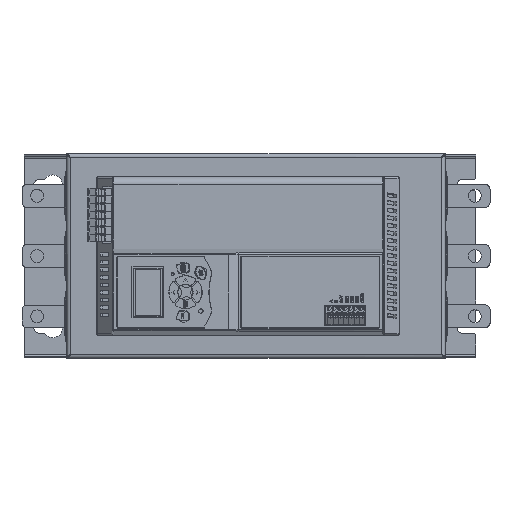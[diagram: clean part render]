
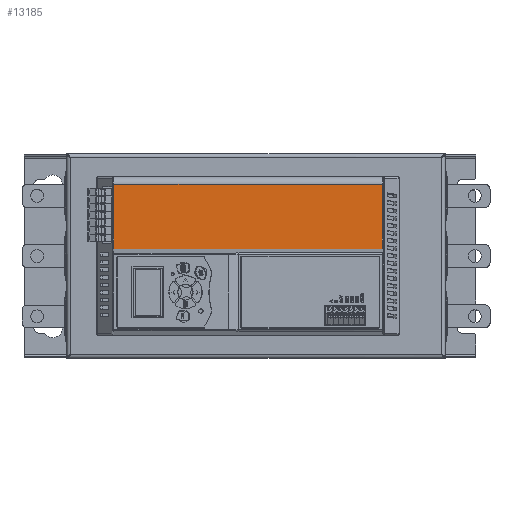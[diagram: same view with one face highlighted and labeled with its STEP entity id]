
A CAD part, top view. The second image highlights one B-rep face of the part: STEP entity #13185.
In plain terms, the highlighted planar face has unit normal (0, 0, 1) as drawn and (0, 1, 0) by its records, which use the part's own axes.
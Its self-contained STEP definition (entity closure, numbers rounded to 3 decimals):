
#1916 = VERTEX_POINT ( 'NONE', #4172 ) ;
#3844 = LINE ( 'NONE', #107056, #15152 ) ;
#4172 = CARTESIAN_POINT ( 'NONE',  ( 89.11, 7.5, 100. ) ) ;
#9306 = DIRECTION ( 'NONE',  ( 0., -1., 0. ) ) ;
#13185 = ADVANCED_FACE ( 'NONE', ( #130173 ), #116699, .F. ) ;
#15152 = VECTOR ( 'NONE', #89524, 1000. ) ;
#19057 = ORIENTED_EDGE ( 'NONE', *, *, #108196, .F. ) ;
#20715 = ORIENTED_EDGE ( 'NONE', *, *, #133011, .F. ) ;
#28914 = DIRECTION ( 'NONE',  ( 0., 0., -1. ) ) ;
#29920 = LINE ( 'NONE', #102789, #68527 ) ;
#31349 = CARTESIAN_POINT ( 'NONE',  ( 362.524, 7.5, 100. ) ) ;
#40044 = DIRECTION ( 'NONE',  ( 0., 0., 1. ) ) ;
#43458 = DIRECTION ( 'NONE',  ( -1., 0., 0. ) ) ;
#51145 = VERTEX_POINT ( 'NONE', #123439 ) ;
#55959 = CARTESIAN_POINT ( 'NONE',  ( 90.11, 7.5, 105. ) ) ;
#57764 = VERTEX_POINT ( 'NONE', #75503 ) ;
#60668 = VECTOR ( 'NONE', #43458, 1000. ) ;
#65470 = VECTOR ( 'NONE', #99230, 1000. ) ;
#66232 = ORIENTED_EDGE ( 'NONE', *, *, #117641, .F. ) ;
#67486 = CARTESIAN_POINT ( 'NONE',  ( -89.11, 7.5, -136.878 ) ) ;
#68527 = VECTOR ( 'NONE', #40044, 1000. ) ;
#75503 = CARTESIAN_POINT ( 'NONE',  ( -89.11, 7.5, 57. ) ) ;
#76396 = AXIS2_PLACEMENT_3D ( 'NONE', #55959, #9306, #28914 ) ;
#80507 = CARTESIAN_POINT ( 'NONE',  ( 89.11, 7.5, 57. ) ) ;
#85177 = EDGE_CURVE ( 'NONE', #119784, #57764, #3844, .T. ) ;
#89524 = DIRECTION ( 'NONE',  ( -1., 0., 0. ) ) ;
#94059 = EDGE_LOOP ( 'NONE', ( #19057, #107102, #66232, #20715 ) ) ;
#99230 = DIRECTION ( 'NONE',  ( 0., 0., -1. ) ) ;
#102789 = CARTESIAN_POINT ( 'NONE',  ( 89.11, 7.5, 100.43 ) ) ;
#107056 = CARTESIAN_POINT ( 'NONE',  ( 90.11, 7.5, 57. ) ) ;
#107102 = ORIENTED_EDGE ( 'NONE', *, *, #85177, .T. ) ;
#108196 = EDGE_CURVE ( 'NONE', #119784, #1916, #29920, .T. ) ;
#116699 = PLANE ( 'NONE',  #76396 ) ;
#117641 = EDGE_CURVE ( 'NONE', #51145, #57764, #118776, .T. ) ;
#118776 = LINE ( 'NONE', #67486, #65470 ) ;
#119784 = VERTEX_POINT ( 'NONE', #80507 ) ;
#123439 = CARTESIAN_POINT ( 'NONE',  ( -89.11, 7.5, 100. ) ) ;
#123768 = LINE ( 'NONE', #31349, #60668 ) ;
#130173 = FACE_OUTER_BOUND ( 'NONE', #94059, .T. ) ;
#133011 = EDGE_CURVE ( 'NONE', #1916, #51145, #123768, .T. ) ;
